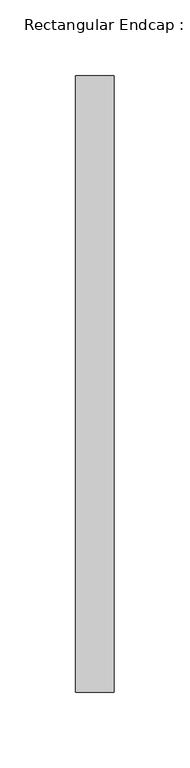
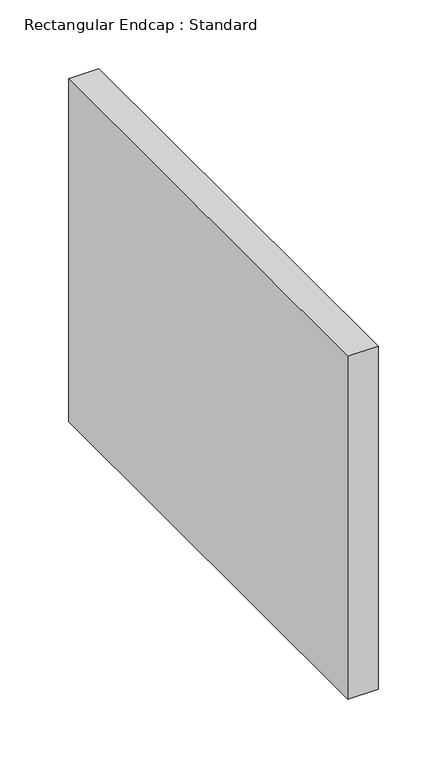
"""IFC4 building model written with IfcOpenShell, lengths in millimetres: duct fitting geometry, Rectangular Endcap : Standard."""

from ifc_helpers import new_model, si_unit, frame, origin, place, context, project, spatial, polyline, outline, extrude, source, transform, mapped, element, save


def rectangular_endcap_standard_0bbf1fc8(model_context):
    return source(origin(), model_context, "Body", "SweptSolid", [
        extrude(outline(polyline([(0.0, -203.2), (0.0, 203.2), (25.4, 203.2), (25.4, -203.2), (0.0, -203.2)])), frame((0.0, 0.0, -152.4), z_axis=(0.0, 0.0, 1.0), x_axis=(1.0, 0.0, 0.0)), (0.0, 0.0, 1.0), 304.8),
    ])


if __name__ == "__main__":
    model = new_model("IFC4")
    model_context = context("Model", 3, world=origin())
    ifc_project = project(units=[si_unit("LENGTHUNIT", "METRE", prefix="MILLI")], contexts=[model_context])
    site = spatial("IfcSite", under=ifc_project)
    building = spatial("IfcBuilding", under=site)
    placement = place(None, origin())
    rectangular_endcap_standard_shape = rectangular_endcap_standard_0bbf1fc8(model_context)
    element("IfcDuctFitting", 1, ObjectType="Rectangular Endcap : Standard", at=placement, inside=building, context=model_context, shape_type="MappedRepresentation", body=[
        mapped(rectangular_endcap_standard_shape, transform((0.0, 0.0, 0.0), x_axis=(1.0, 0.0, 0.0), y_axis=(0.0, 1.0, 0.0), z_axis=(0.0, 0.0, 1.0))),
    ])
    save(model, "model.ifc")
